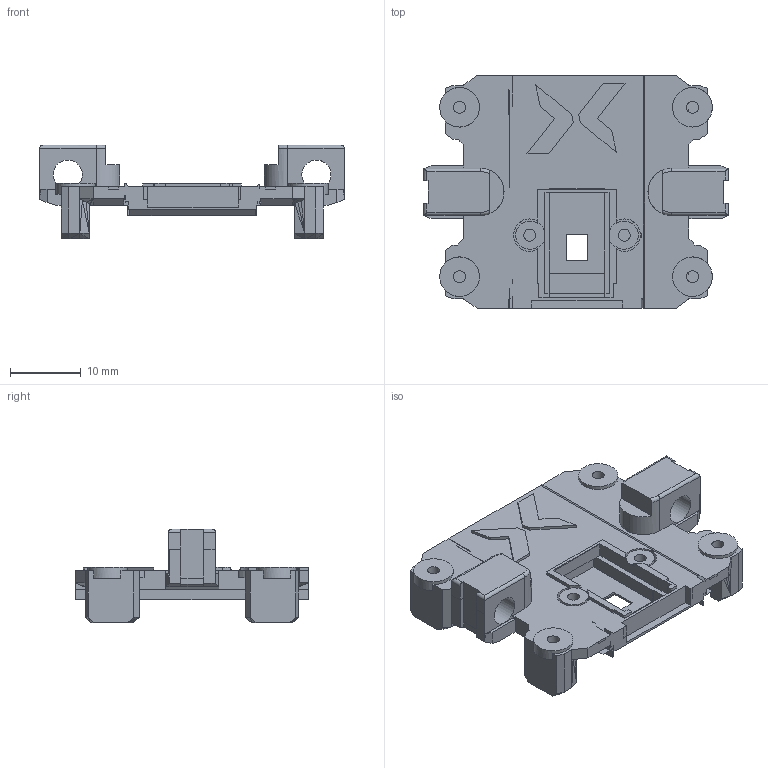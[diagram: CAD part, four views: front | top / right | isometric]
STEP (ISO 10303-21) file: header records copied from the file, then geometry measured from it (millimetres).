
FILE_DESCRIPTION(('Open CASCADE Model'),'2;1');
FILE_NAME('Open CASCADE Shape Model','2026-10-13T09:12:32',('Author'),( 'Open CASCADE'),'Open CASCADE STEP processor 7.9','Open CASCADE 7.9' ,'Unknown');
FILE_SCHEMA(('AUTOMOTIVE_DESIGN { 1 0 10303 214 1 1 1 1 }'));
Length unit declared in the file: millimetre
Products named in the file (1): Open CASCADE STEP translator 7.9 1
Bounding box: 43.15 x 32.95 x 13.28 mm (x, y, z)
Volume: 4552.5 mm3; surface area: 4399.5 mm2
Topology: 1 solids, 1 shells, 583 faces, 1641 edges, 1070 vertices
Faces by surface type: plane 538, cylinder 38, torus 4, bspline 2, cone 1
Full cylindrical faces by diameter (mm): 1.7 x6, 5.6 x4
Entity records: 40172 total; most frequent: CARTESIAN_POINT 7313, DIRECTION 6030, LINE 4596, VECTOR 4596, ORIENTED_EDGE 3282, PCURVE 3282, DEFINITIONAL_REPRESENTATION 3282, EDGE_CURVE 1641
